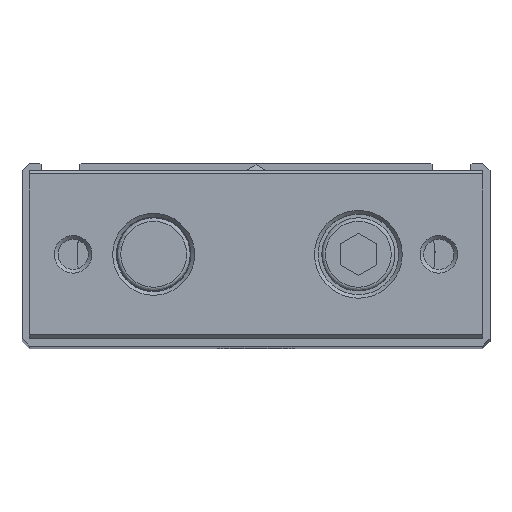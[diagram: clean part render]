
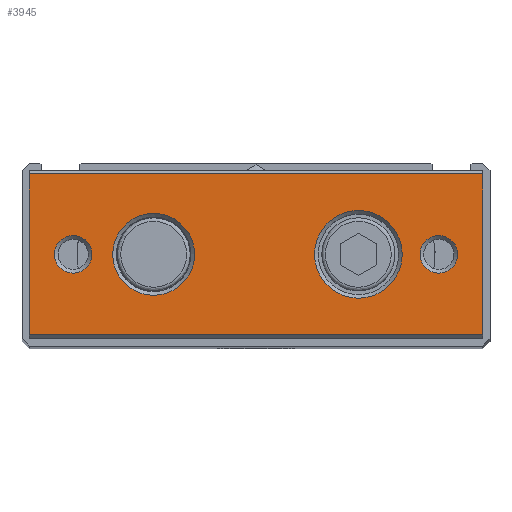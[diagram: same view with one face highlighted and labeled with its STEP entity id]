
A CAD part, top view. The second image highlights one B-rep face of the part: STEP entity #3945.
In plain terms, the highlighted planar face has unit normal (0, 0, 1).
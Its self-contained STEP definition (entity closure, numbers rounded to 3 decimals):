
#3393=CARTESIAN_POINT('',(-31.0,-11.,234.0));
#3394=VERTEX_POINT('',#3393);
#3401=CARTESIAN_POINT('',(-31.0,11.,234.0));
#3402=VERTEX_POINT('',#3401);
#3403=CARTESIAN_POINT('',(-31.0,11.,234.0));
#3404=DIRECTION('',(0.0,-1.0,0.0));
#3405=VECTOR('',#3404,22.);
#3406=LINE('',#3403,#3405);
#3407=EDGE_CURVE('',#3402,#3394,#3406,.T.);
#3521=CARTESIAN_POINT('',(31.0,-11.,234.0));
#3522=VERTEX_POINT('',#3521);
#3529=CARTESIAN_POINT('',(31.0,-11.,234.0));
#3530=DIRECTION('',(-1.0,0.0,0.0));
#3531=VECTOR('',#3530,62.0);
#3532=LINE('',#3529,#3531);
#3533=EDGE_CURVE('',#3522,#3394,#3532,.T.);
#3600=CARTESIAN_POINT('',(31.0,11.,234.0));
#3601=VERTEX_POINT('',#3600);
#3608=CARTESIAN_POINT('',(31.0,-11.,234.0));
#3609=DIRECTION('',(0.0,1.0,0.0));
#3610=VECTOR('',#3609,22.);
#3611=LINE('',#3608,#3610);
#3612=EDGE_CURVE('',#3522,#3601,#3611,.T.);
#3881=CARTESIAN_POINT('',(20.0,0.,234.0));
#3882=VERTEX_POINT('',#3881);
#3883=CARTESIAN_POINT('',(14.0,0.,234.0));
#3884=DIRECTION('',(0.0,0.0,1.0));
#3885=DIRECTION('',(-1.0,0.0,0.0));
#3886=AXIS2_PLACEMENT_3D('',#3883,#3884,#3885);
#3887=CIRCLE('',#3886,6.);
#3888=EDGE_CURVE('',#3882,#3882,#3887,.T.);
#3893=CARTESIAN_POINT('',(0.0,-11.5,234.0));
#3894=DIRECTION('',(0.0,0.0,1.0));
#3895=DIRECTION('',(1.0,0.0,0.0));
#3896=AXIS2_PLACEMENT_3D('',#3893,#3894,#3895);
#3897=PLANE('',#3896);
#3898=ORIENTED_EDGE('',*,*,#3533,.F.);
#3899=ORIENTED_EDGE('',*,*,#3612,.T.);
#3900=CARTESIAN_POINT('',(-31.0,11.,234.0));
#3901=DIRECTION('',(1.0,0.0,0.0));
#3902=VECTOR('',#3901,62.0);
#3903=LINE('',#3900,#3902);
#3904=EDGE_CURVE('',#3402,#3601,#3903,.T.);
#3905=ORIENTED_EDGE('',*,*,#3904,.F.);
#3906=ORIENTED_EDGE('',*,*,#3407,.T.);
#3907=EDGE_LOOP('',(#3898,#3899,#3905,#3906));
#3908=FACE_OUTER_BOUND('',#3907,.T.);
#3909=CARTESIAN_POINT('',(-8.4,0.,234.0));
#3910=VERTEX_POINT('',#3909);
#3911=CARTESIAN_POINT('',(-14.,0.,234.0));
#3912=DIRECTION('',(0.0,0.0,1.0));
#3913=DIRECTION('',(-1.0,0.0,0.0));
#3914=AXIS2_PLACEMENT_3D('',#3911,#3912,#3913);
#3915=CIRCLE('',#3914,5.6);
#3916=EDGE_CURVE('',#3910,#3910,#3915,.T.);
#3917=ORIENTED_EDGE('',*,*,#3916,.F.);
#3918=EDGE_LOOP('',(#3917));
#3919=FACE_BOUND('',#3918,.T.);
#3920=CARTESIAN_POINT('',(27.567,0.,234.0));
#3921=VERTEX_POINT('',#3920);
#3922=CARTESIAN_POINT('',(25.,0.,234.0));
#3923=DIRECTION('',(0.0,0.0,1.0));
#3924=DIRECTION('',(-1.0,0.0,0.0));
#3925=AXIS2_PLACEMENT_3D('',#3922,#3923,#3924);
#3926=CIRCLE('',#3925,2.567);
#3927=EDGE_CURVE('',#3921,#3921,#3926,.T.);
#3928=ORIENTED_EDGE('',*,*,#3927,.F.);
#3929=EDGE_LOOP('',(#3928));
#3930=FACE_BOUND('',#3929,.T.);
#3931=CARTESIAN_POINT('',(-22.433,0.,234.0));
#3932=VERTEX_POINT('',#3931);
#3933=CARTESIAN_POINT('',(-25.0,0.,234.0));
#3934=DIRECTION('',(0.0,0.0,1.0));
#3935=DIRECTION('',(-1.0,0.0,0.0));
#3936=AXIS2_PLACEMENT_3D('',#3933,#3934,#3935);
#3937=CIRCLE('',#3936,2.567);
#3938=EDGE_CURVE('',#3932,#3932,#3937,.T.);
#3939=ORIENTED_EDGE('',*,*,#3938,.F.);
#3940=EDGE_LOOP('',(#3939));
#3941=FACE_BOUND('',#3940,.T.);
#3942=ORIENTED_EDGE('',*,*,#3888,.F.);
#3943=EDGE_LOOP('',(#3942));
#3944=FACE_BOUND('',#3943,.T.);
#3945=ADVANCED_FACE('',(#3908,#3919,#3930,#3941,#3944),#3897,.T.);
